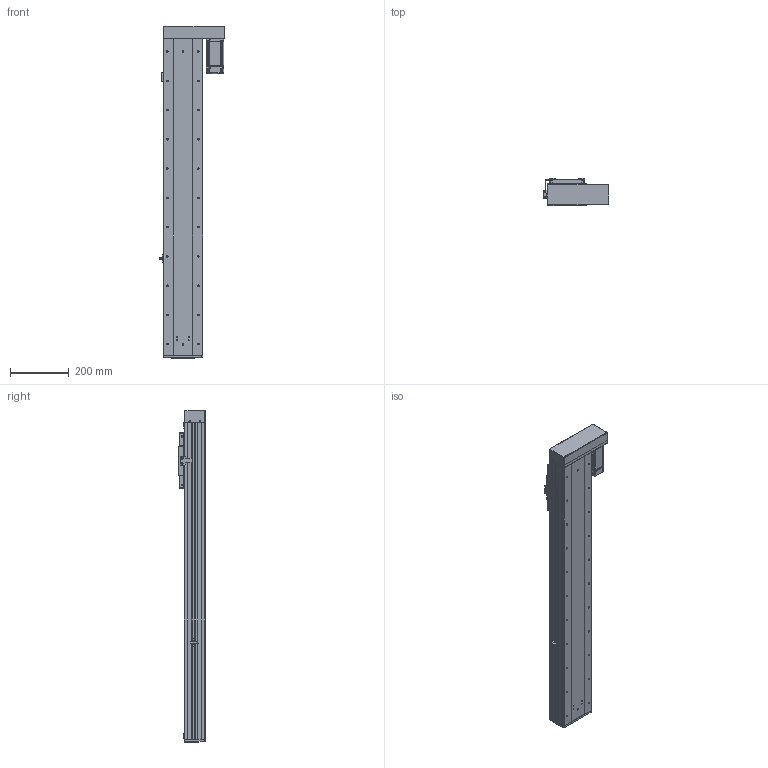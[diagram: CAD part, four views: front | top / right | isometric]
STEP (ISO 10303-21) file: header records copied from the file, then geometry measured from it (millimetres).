
FILE_DESCRIPTION (( 'STEP AP203' ), '1' );
FILE_NAME ('RY140F-L2020-300-RK.SLDASM_800.step', '2021-03-02T08:50:36', ( '盈信电脑' ), ( '东莞市道滘镇水果街19号' ), 'SwSTEP 2.0', 'SolidWorks 2012', '' );
FILE_SCHEMA (( 'CONFIG_CONTROL_DESIGN' ));
Products named in the file (19): RY140F-L2020-300-RK.SLDASM_800; RY140F-酘衵殏萇儂欶(400W); 侐源滅袉蝶; RY140F-左右折电机安装板(400W M5); RY140F-转折折电机座（7001）; RY140F-672覜茼んえ; RY140F-詩湍揤え; 覜茼ん672; 侂狟400W侜督萇儂; RY140F-直连型材铝滑块(16丝杆); RY140F-后盖板(铝件）; RY100F-詩湍揤踡謫; 15; RY140F-滅鳥奻裔; RY140F-直连型材铝滑块连接座; RY140F-300-RK蛌殏詩湍_800; RY140F-詩湍幗謫粣; RY140F-300-RK倰第奻裔啣_800; RY140F-300-RK倰第菁釱_800
Assembly tree (23 placements, depth 3):
  RY140F-L2020-300-RK.SLDASM_800
    RY140F-300-RK倰第菁釱_800
    RY140F-300-RK倰第奻裔啣_800  x2
    RY140F-300-RK蛌殏詩湍_800
    RY140F-直连型材铝滑块连接座
    RY140F-滅鳥奻裔
    RY140F-詩湍幗謫粣
    RY100F-詩湍揤踡謫
    RY140F-直连型材铝滑块(16丝杆)
    RY140F-后盖板(铝件）
    侂狟400W侜督萇儂
      15
    覜茼ん672
    RY140F-672覜茼んえ
    RY140F-詩湍揤え  x2
    侐源滅袉蝶  x4
    RY140F-转折折电机座（7001）
    RY140F-左右折电机安装板(400W M5)
    RY140F-酘衵殏萇儂欶(400W)
Bounding box: 224.7 x 91 x 1134 mm (x, y, z)
Volume: 4385419.5 mm3; surface area: 1566291.1 mm2
Topology: 22 solids, 22 shells, 2065 faces, 5629 edges, 3564 vertices
Faces by surface type: cylinder 1008, plane 789, cone 238, bspline 26, torus 4
Entity records: 65103 total; most frequent: CARTESIAN_POINT 13725, DIRECTION 10458, ORIENTED_EDGE 10122, EDGE_CURVE 5061, AXIS2_PLACEMENT_3D 3761, VERTEX_POINT 3304, LINE 2936, VECTOR 2936
